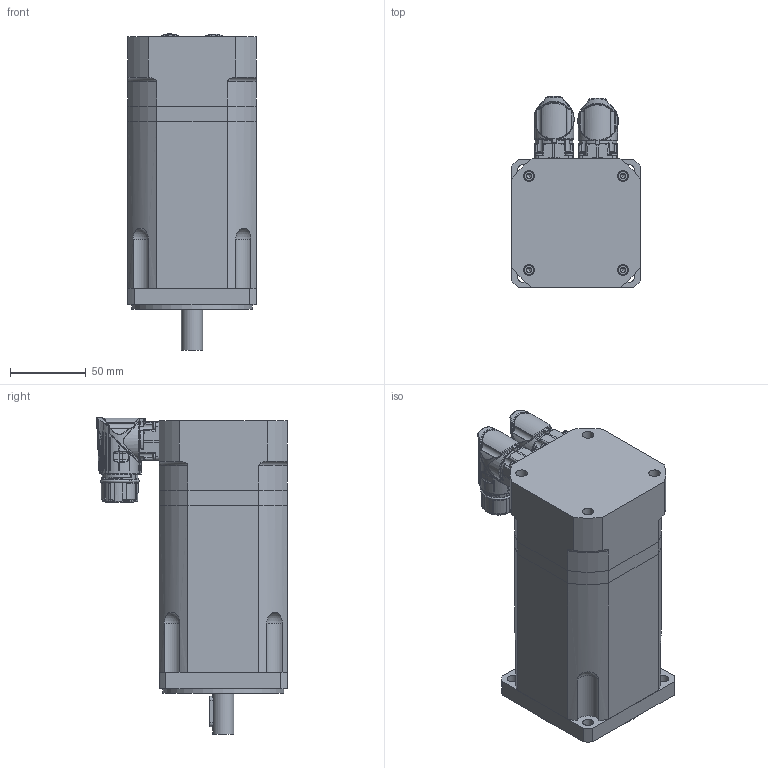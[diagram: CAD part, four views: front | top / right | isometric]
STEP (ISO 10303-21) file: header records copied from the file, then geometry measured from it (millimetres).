
FILE_DESCRIPTION(/* description */ (''),/* implementation_level */ '2;1');
FILE_NAME(/* name */ 'C:\Users\Public\Documents\Autodesk\Inventor LT 2014\Workspace\TG3\DSM5_3x_xxx7\DSM5_31_x1x7.stp',/* time_stamp */ '2016-04-28T10:16:01+02:00',/* author */ ('motion'),/* organization */ (''),/* preprocessor_version */ 'ST-DEVELOPER v15.2',/* originating_system */ 'Autodesk Inventor LT ',/* authorisation */ '');
FILE_SCHEMA (('AUTOMOTIVE_DESIGN { 1 0 10303 214 3 1 1 }'));
Products named in the file (1): DSM5_31_x1x7
Bounding box: 85 x 126.43 x 209.41 mm (x, y, z)
Volume: 1254432 mm3; surface area: 139872.2 mm2
Topology: 15 solids, 17 shells, 3062 faces, 7707 edges, 4631 vertices
Faces by surface type: cylinder 880, bspline 855, plane 596, torus 382, cone 229, sphere 120
Full cylindrical faces by diameter (mm): 1.2 x17, 2 x6, 2.15 x6, 2.224 x8, 2.5 x8, 2.7 x8, 3 x1, 4 x8, 4.134 x1, 4.5 x2, 5 x4, 5.5 x3, 5.9 x2, 7 x12, 7.2 x4, 7.5 x4, 14 x1, 15 x1, 15.2 x1, 19.1 x1, 21.6 x1, 22.5 x1, 23 x2, 24.4 x1, 28 x1, 35 x2, 60 x1, 80 x1
Entity records: 189383 total; most frequent: CARTESIAN_POINT 120010, ORIENTED_EDGE 14494, DIRECTION 12705, EDGE_CURVE 7247, AXIS2_PLACEMENT_3D 5470, VERTEX_POINT 4541, EDGE_LOOP 3460, ADVANCED_FACE 3057
